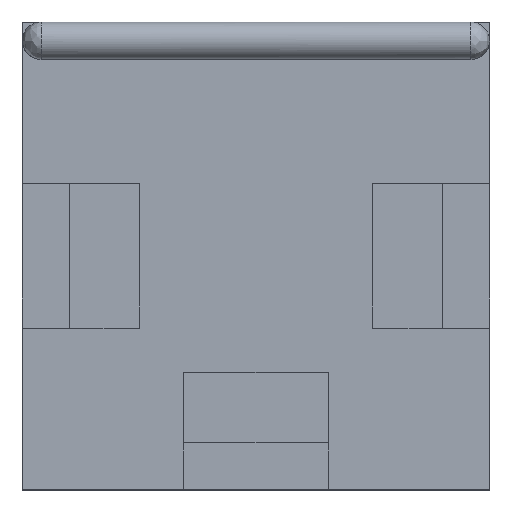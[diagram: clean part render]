
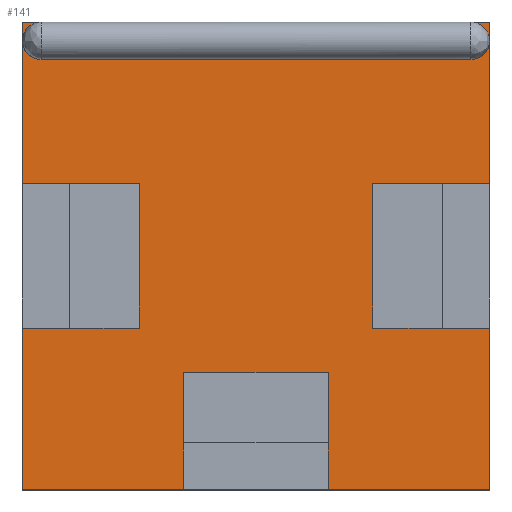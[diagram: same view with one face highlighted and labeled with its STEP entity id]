
A CAD part, top view. The second image highlights one B-rep face of the part: STEP entity #141.
In plain terms, the highlighted planar face has unit normal (0, 0, 1).
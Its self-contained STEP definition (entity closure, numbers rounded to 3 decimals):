
#141=ADVANCED_FACE('',(#243),#1437,.T.);
#243=FACE_OUTER_BOUND('',#345,.T.);
#345=EDGE_LOOP('',(#648,#649,#650,#651,#652,#653,#654,#655,#656,#657,#658,
#659,#660,#661,#662,#663));
#648=ORIENTED_EDGE('',*,*,#944,.T.);
#649=ORIENTED_EDGE('',*,*,#945,.T.);
#650=ORIENTED_EDGE('',*,*,#946,.T.);
#651=ORIENTED_EDGE('',*,*,#947,.T.);
#652=ORIENTED_EDGE('',*,*,#937,.F.);
#653=ORIENTED_EDGE('',*,*,#948,.T.);
#654=ORIENTED_EDGE('',*,*,#949,.T.);
#655=ORIENTED_EDGE('',*,*,#950,.T.);
#656=ORIENTED_EDGE('',*,*,#941,.F.);
#657=ORIENTED_EDGE('',*,*,#951,.T.);
#658=ORIENTED_EDGE('',*,*,#952,.T.);
#659=ORIENTED_EDGE('',*,*,#953,.T.);
#660=ORIENTED_EDGE('',*,*,#954,.T.);
#661=ORIENTED_EDGE('',*,*,#955,.T.);
#662=ORIENTED_EDGE('',*,*,#956,.T.);
#663=ORIENTED_EDGE('',*,*,#957,.T.);
#937=EDGE_CURVE('',#1313,#1314,#1151,.T.);
#941=EDGE_CURVE('',#1317,#1318,#1155,.T.);
#944=EDGE_CURVE('',#1320,#1321,#1158,.T.);
#945=EDGE_CURVE('',#1321,#1322,#1159,.T.);
#946=EDGE_CURVE('',#1322,#1323,#1160,.T.);
#947=EDGE_CURVE('',#1323,#1314,#1161,.T.);
#948=EDGE_CURVE('',#1313,#1324,#1162,.T.);
#949=EDGE_CURVE('',#1324,#1325,#1163,.T.);
#950=EDGE_CURVE('',#1325,#1318,#1164,.T.);
#951=EDGE_CURVE('',#1317,#1326,#1165,.T.);
#952=EDGE_CURVE('',#1326,#1327,#1166,.T.);
#953=EDGE_CURVE('',#1327,#1328,#1167,.T.);
#954=EDGE_CURVE('',#1328,#1329,#1168,.T.);
#955=EDGE_CURVE('',#1329,#1330,#1169,.T.);
#956=EDGE_CURVE('',#1330,#1331,#1170,.T.);
#957=EDGE_CURVE('',#1331,#1320,#1171,.T.);
#1151=B_SPLINE_CURVE_WITH_KNOTS('',1,(#2189,#2190),.UNSPECIFIED.,.F.,.F.,
(2,2),(0.,172.5),.UNSPECIFIED.);
#1155=B_SPLINE_CURVE_WITH_KNOTS('',1,(#2197,#2198),.UNSPECIFIED.,.F.,.F.,
(2,2),(0.,172.5),.UNSPECIFIED.);
#1158=B_SPLINE_CURVE_WITH_KNOTS('',1,(#2203,#2204),.UNSPECIFIED.,.F.,.F.,
(2,2),(0.,155.),.UNSPECIFIED.);
#1159=B_SPLINE_CURVE_WITH_KNOTS('',1,(#2205,#2206),.UNSPECIFIED.,.F.,.F.,
(2,2),(0.,125.),.UNSPECIFIED.);
#1160=B_SPLINE_CURVE_WITH_KNOTS('',1,(#2207,#2208),.UNSPECIFIED.,.F.,.F.,
(2,2),(0.,172.5),.UNSPECIFIED.);
#1161=B_SPLINE_CURVE_WITH_KNOTS('',1,(#2209,#2210),.UNSPECIFIED.,.F.,.F.,
(2,2),(0.,500.),.UNSPECIFIED.);
#1162=B_SPLINE_CURVE_WITH_KNOTS('',1,(#2211,#2212),.UNSPECIFIED.,.F.,.F.,
(2,2),(0.,125.),.UNSPECIFIED.);
#1163=B_SPLINE_CURVE_WITH_KNOTS('',1,(#2213,#2214),.UNSPECIFIED.,.F.,.F.,
(2,2),(0.,155.),.UNSPECIFIED.);
#1164=B_SPLINE_CURVE_WITH_KNOTS('',1,(#2215,#2216),.UNSPECIFIED.,.F.,.F.,
(2,2),(0.,125.),.UNSPECIFIED.);
#1165=B_SPLINE_CURVE_WITH_KNOTS('',1,(#2217,#2218),.UNSPECIFIED.,.F.,.F.,
(2,2),(0.,172.5),.UNSPECIFIED.);
#1166=B_SPLINE_CURVE_WITH_KNOTS('',1,(#2219,#2220),.UNSPECIFIED.,.F.,.F.,
(2,2),(0.,125.),.UNSPECIFIED.);
#1167=B_SPLINE_CURVE_WITH_KNOTS('',1,(#2221,#2222),.UNSPECIFIED.,.F.,.F.,
(2,2),(0.,155.),.UNSPECIFIED.);
#1168=B_SPLINE_CURVE_WITH_KNOTS('',1,(#2223,#2224),.UNSPECIFIED.,.F.,.F.,
(2,2),(0.,125.),.UNSPECIFIED.);
#1169=B_SPLINE_CURVE_WITH_KNOTS('',1,(#2225,#2226),.UNSPECIFIED.,.F.,.F.,
(2,2),(0.,172.5),.UNSPECIFIED.);
#1170=B_SPLINE_CURVE_WITH_KNOTS('',1,(#2227,#2228),.UNSPECIFIED.,.F.,.F.,
(2,2),(0.,172.5),.UNSPECIFIED.);
#1171=B_SPLINE_CURVE_WITH_KNOTS('',1,(#2229,#2230),.UNSPECIFIED.,.F.,.F.,
(2,2),(0.,125.),.UNSPECIFIED.);
#1313=VERTEX_POINT('',#2144);
#1314=VERTEX_POINT('',#2145);
#1317=VERTEX_POINT('',#2148);
#1318=VERTEX_POINT('',#2149);
#1320=VERTEX_POINT('',#2151);
#1321=VERTEX_POINT('',#2152);
#1322=VERTEX_POINT('',#2153);
#1323=VERTEX_POINT('',#2154);
#1324=VERTEX_POINT('',#2155);
#1325=VERTEX_POINT('',#2156);
#1326=VERTEX_POINT('',#2157);
#1327=VERTEX_POINT('',#2158);
#1328=VERTEX_POINT('',#2159);
#1329=VERTEX_POINT('',#2160);
#1330=VERTEX_POINT('',#2161);
#1331=VERTEX_POINT('',#2162);
#1437=PLANE('',#1554);
#1554=AXIS2_PLACEMENT_3D('',#2120,#1654,$);
#1654=DIRECTION('',(0.,0.,1.));
#2120=CARTESIAN_POINT('',(-250.,-250.,460.));
#2144=CARTESIAN_POINT('',(-250.,77.5,460.));
#2145=CARTESIAN_POINT('',(-250.,250.,460.));
#2148=CARTESIAN_POINT('',(-250.,-250.,460.));
#2149=CARTESIAN_POINT('',(-250.,-77.5,460.));
#2151=CARTESIAN_POINT('',(125.,-77.5,460.));
#2152=CARTESIAN_POINT('',(125.,77.5,460.));
#2153=CARTESIAN_POINT('',(250.,77.5,460.));
#2154=CARTESIAN_POINT('',(250.,250.,460.));
#2155=CARTESIAN_POINT('',(-125.,77.5,460.));
#2156=CARTESIAN_POINT('',(-125.,-77.5,460.));
#2157=CARTESIAN_POINT('',(-77.5,-250.,460.));
#2158=CARTESIAN_POINT('',(-77.5,-125.,460.));
#2159=CARTESIAN_POINT('',(77.5,-125.,460.));
#2160=CARTESIAN_POINT('',(77.5,-250.,460.));
#2161=CARTESIAN_POINT('',(250.,-250.,460.));
#2162=CARTESIAN_POINT('',(250.,-77.5,460.));
#2189=CARTESIAN_POINT('',(-250.,77.5,460.));
#2190=CARTESIAN_POINT('',(-250.,250.,460.));
#2197=CARTESIAN_POINT('',(-250.,-250.,460.));
#2198=CARTESIAN_POINT('',(-250.,-77.5,460.));
#2203=CARTESIAN_POINT('',(125.,-77.5,460.));
#2204=CARTESIAN_POINT('',(125.,77.5,460.));
#2205=CARTESIAN_POINT('',(125.,77.5,460.));
#2206=CARTESIAN_POINT('',(250.,77.5,460.));
#2207=CARTESIAN_POINT('',(250.,77.5,460.));
#2208=CARTESIAN_POINT('',(250.,250.,460.));
#2209=CARTESIAN_POINT('',(250.,250.,460.));
#2210=CARTESIAN_POINT('',(-250.,250.,460.));
#2211=CARTESIAN_POINT('',(-250.,77.5,460.));
#2212=CARTESIAN_POINT('',(-125.,77.5,460.));
#2213=CARTESIAN_POINT('',(-125.,77.5,460.));
#2214=CARTESIAN_POINT('',(-125.,-77.5,460.));
#2215=CARTESIAN_POINT('',(-125.,-77.5,460.));
#2216=CARTESIAN_POINT('',(-250.,-77.5,460.));
#2217=CARTESIAN_POINT('',(-250.,-250.,460.));
#2218=CARTESIAN_POINT('',(-77.5,-250.,460.));
#2219=CARTESIAN_POINT('',(-77.5,-250.,460.));
#2220=CARTESIAN_POINT('',(-77.5,-125.,460.));
#2221=CARTESIAN_POINT('',(-77.5,-125.,460.));
#2222=CARTESIAN_POINT('',(77.5,-125.,460.));
#2223=CARTESIAN_POINT('',(77.5,-125.,460.));
#2224=CARTESIAN_POINT('',(77.5,-250.,460.));
#2225=CARTESIAN_POINT('',(77.5,-250.,460.));
#2226=CARTESIAN_POINT('',(250.,-250.,460.));
#2227=CARTESIAN_POINT('',(250.,-250.,460.));
#2228=CARTESIAN_POINT('',(250.,-77.5,460.));
#2229=CARTESIAN_POINT('',(250.,-77.5,460.));
#2230=CARTESIAN_POINT('',(125.,-77.5,460.));
